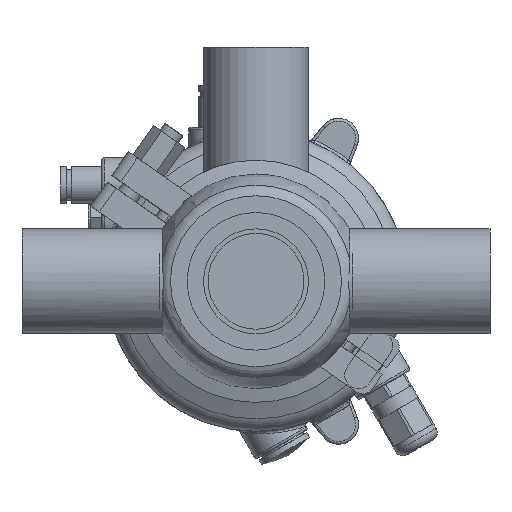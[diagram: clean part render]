
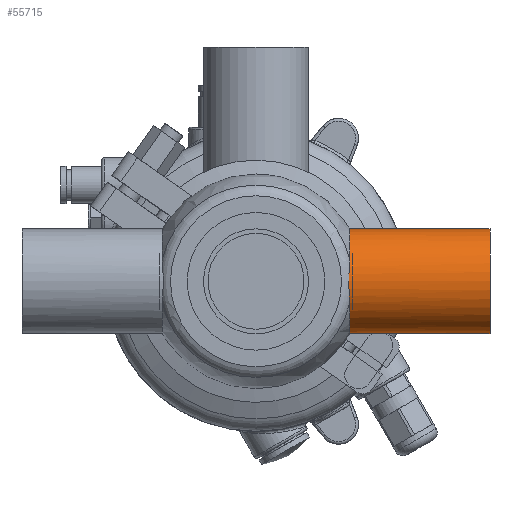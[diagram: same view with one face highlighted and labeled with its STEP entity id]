
A CAD part, front view. The second image highlights one B-rep face of the part: STEP entity #55715.
In plain terms, the highlighted cylindrical face has radius 19.05 mm (diameter 38.1 mm), a full revolution.
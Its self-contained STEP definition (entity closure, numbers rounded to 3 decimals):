
#105 = VERTEX_POINT ( 'NONE', #1625 ) ;
#1449 = CARTESIAN_POINT ( 'NONE',  ( 34.031, -17.924, -6.593 ) ) ;
#1625 = CARTESIAN_POINT ( 'NONE',  ( 34.031, -17.366, -7.83 ) ) ;
#1641 = EDGE_CURVE ( 'NONE', #105, #54649, #44167, .T. ) ;
#1819 = CARTESIAN_POINT ( 'NONE',  ( 33.693, -19.015, -1.338 ) ) ;
#2801 = CARTESIAN_POINT ( 'NONE',  ( 34.031, 0., 0. ) ) ;
#3628 = CARTESIAN_POINT ( 'NONE',  ( 33.936, -18.344, -5.312 ) ) ;
#6218 = VERTEX_POINT ( 'NONE', #57436 ) ;
#8850 = EDGE_CURVE ( 'NONE', #54649, #105, #55746, .T. ) ;
#10886 = CYLINDRICAL_SURFACE ( 'NONE', #31987, 19.05 ) ;
#12192 = DIRECTION ( 'NONE',  ( 1., 0., 0. ) ) ;
#14137 = DIRECTION ( 'NONE',  ( 0., 0., 1. ) ) ;
#15128 = CARTESIAN_POINT ( 'NONE',  ( 34.031, -17.366, -7.83 ) ) ;
#21212 = CARTESIAN_POINT ( 'NONE',  ( 33.693, -19.015, 1.339 ) ) ;
#24888 = CARTESIAN_POINT ( 'NONE',  ( 33.675, -19.05, -0.671 ) ) ;
#25925 = EDGE_CURVE ( 'NONE', #6218, #6218, #40348, .T. ) ;
#27964 = CARTESIAN_POINT ( 'NONE',  ( 33.8, -18.765, 3.352 ) ) ;
#28515 = FACE_OUTER_BOUND ( 'NONE', #56286, .T. ) ;
#29173 = CARTESIAN_POINT ( 'NONE',  ( 33.675, -19.05, 0.667 ) ) ;
#31987 = AXIS2_PLACEMENT_3D ( 'NONE', #47120, #38869, #57534 ) ;
#31995 = CARTESIAN_POINT ( 'NONE',  ( 34.031, -17.925, 6.591 ) ) ;
#34341 = FACE_OUTER_BOUND ( 'NONE', #47302, .T. ) ;
#34398 = CARTESIAN_POINT ( 'NONE',  ( 33.755, -18.874, -2.667 ) ) ;
#38869 = DIRECTION ( 'NONE',  ( -1., 0., 0. ) ) ;
#39907 = DIRECTION ( 'NONE',  ( 0., 0., 1. ) ) ;
#40348 = CIRCLE ( 'NONE', #58033, 19.05 ) ;
#44154 = CARTESIAN_POINT ( 'NONE',  ( 34.031, -17.366, 7.83 ) ) ;
#44167 = CIRCLE ( 'NONE', #57847, 19.05 ) ;
#44232 = ORIENTED_EDGE ( 'NONE', *, *, #8850, .T. ) ;
#45041 = CARTESIAN_POINT ( 'NONE',  ( 33.937, -18.342, 5.317 ) ) ;
#45578 = CARTESIAN_POINT ( 'NONE',  ( 33.799, -18.769, -3.33 ) ) ;
#45989 = ORIENTED_EDGE ( 'NONE', *, *, #1641, .T. ) ;
#46695 = CARTESIAN_POINT ( 'NONE',  ( 85., 0., 0. ) ) ;
#47120 = CARTESIAN_POINT ( 'NONE',  ( 0., 0., 0. ) ) ;
#47302 = EDGE_LOOP ( 'NONE', ( #45989, #44232 ) ) ;
#47341 = CARTESIAN_POINT ( 'NONE',  ( 34.031, -17.366, 7.83 ) ) ;
#49833 = ORIENTED_EDGE ( 'NONE', *, *, #25925, .T. ) ;
#51603 = DIRECTION ( 'NONE',  ( -1., 0., 0. ) ) ;
#54649 = VERTEX_POINT ( 'NONE', #47341 ) ;
#55715 = ADVANCED_FACE ( 'NONE', ( #34341, #28515 ), #10886, .T. ) ;
#55746 = B_SPLINE_CURVE_WITH_KNOTS ( 'NONE', 3,
 ( #44154, #31995, #45041, #27964, #57855, #21212, #29173, #24888, #1819, #34398, #45578, #3628, #1449, #15128 ),
 .UNSPECIFIED., .F., .F.,
 ( 4, 2, 2, 2, 2, 2, 4 ),
 ( 0., 0.004, 0.006, 0.008, 0.01, 0.012, 0.016 ),
 .UNSPECIFIED. ) ;
#56286 = EDGE_LOOP ( 'NONE', ( #49833 ) ) ;
#57436 = CARTESIAN_POINT ( 'NONE',  ( 85., 0., 19.05 ) ) ;
#57534 = DIRECTION ( 'NONE',  ( 0., 0., 1. ) ) ;
#57847 = AXIS2_PLACEMENT_3D ( 'NONE', #2801, #12192, #39907 ) ;
#57855 = CARTESIAN_POINT ( 'NONE',  ( 33.756, -18.872, 2.686 ) ) ;
#58033 = AXIS2_PLACEMENT_3D ( 'NONE', #46695, #51603, #14137 ) ;
